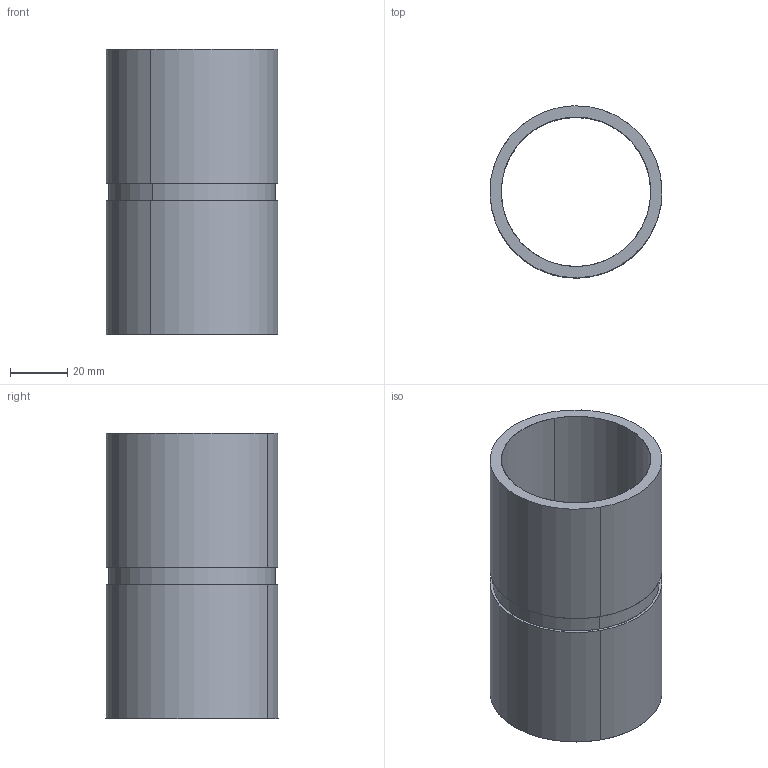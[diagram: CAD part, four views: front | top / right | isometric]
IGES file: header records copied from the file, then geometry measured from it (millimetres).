
Start section: START RECORD GO HERE.
Global section: file name: 395H 19-232-0320.igs; native system: DASSAULT SYSTEMES CATIA V5 R20 - www.3ds.com; preprocessor: CATIA Version 5 Release 20 ; author: Utente; organization: NB04-ASUS; date: 20200409.155105; units: millimetre
Bounding box: 60.31 x 60.33 x 100 mm (x, y, z)
Surface area: 37154.5 mm2 (no closed solid volume)
Topology: 0 solids, 0 shells, 12 faces, 51 edges, 55 vertices
Faces by surface type: revolution 8, plane 4
